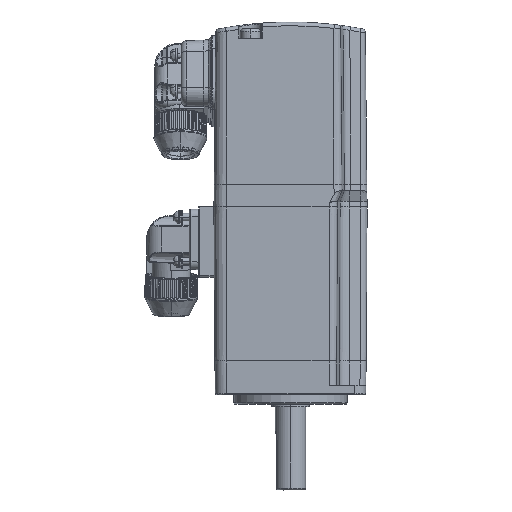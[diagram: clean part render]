
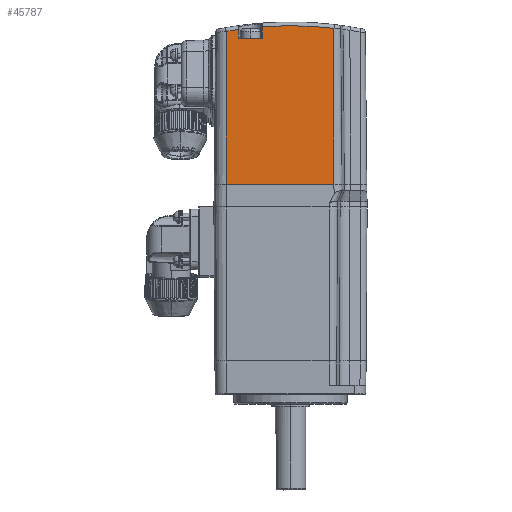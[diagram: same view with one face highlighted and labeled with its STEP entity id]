
A CAD part, front view. The second image highlights one B-rep face of the part: STEP entity #45787.
In plain terms, the highlighted planar face has unit normal (0, -1, 0.009).
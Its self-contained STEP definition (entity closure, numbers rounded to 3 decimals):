
#3166=CARTESIAN_POINT('',(7.305,0.458,46.42));
#3168=DIRECTION('',(0.,-0.009,-1.));
#3169=VECTOR('',#3168,40.422);
#3170=CARTESIAN_POINT('',(7.305,0.458,46.42));
#3171=LINE('',#3170,#3169);
#12964=DIRECTION('',(-1.,0.,0.));
#12965=VECTOR('',#12964,28.492);
#12966=CARTESIAN_POINT('',(35.795,0.105,
6.));
#12967=LINE('',#12966,#12965);
#12968=CARTESIAN_POINT('',(24.301,-0.38,
-49.843));
#12969=DIRECTION('',(0.,1.,-0.009));
#12970=DIRECTION('',(-0.174,0.009,0.985));
#12971=AXIS2_PLACEMENT_3D('',#12968,#12969,#12970);
#12973=CARTESIAN_POINT('',(24.3,-0.38,
-49.832));
#12974=DIRECTION('',(0.,1.,-0.009));
#12975=DIRECTION('',(-0.076,0.009,0.997));
#12976=AXIS2_PLACEMENT_3D('',#12973,#12974,#12975);
#13169=DIRECTION('',(0.,0.009,1.));
#13170=VECTOR('',#13169,41.232);
#13171=CARTESIAN_POINT('',(35.795,0.105,
6.));
#13172=LINE('',#13171,#13170);
#13173=CARTESIAN_POINT('',(35.792,0.465,
47.231));
#14659=DIRECTION('',(0.,-0.009,
-1.));
#14660=VECTOR('',#14659,3.027);
#14661=CARTESIAN_POINT('',(16.88,0.468,47.627));
#14662=LINE('',#14661,#14660);
#14678=DIRECTION('',(-1.,0.,0.));
#14679=VECTOR('',#14678,6.4);
#14680=CARTESIAN_POINT('',(16.88,0.442,44.6));
#14681=LINE('',#14680,#14679);
#14703=DIRECTION('',(0.,0.009,1.));
#14704=VECTOR('',#14703,2.327);
#14705=CARTESIAN_POINT('',(10.48,0.442,44.6));
#14706=LINE('',#14705,#14704);
#27649=VERTEX_POINT('',#13173);
#27695=VERTEX_POINT('',#3166);
#27696=CARTESIAN_POINT('',(16.88,0.468,47.627));
#27697=CARTESIAN_POINT('',(16.88,0.442,44.6));
#27698=VERTEX_POINT('',#27696);
#27699=VERTEX_POINT('',#27697);
#27700=CARTESIAN_POINT('',(10.48,0.462,
46.927));
#27701=VERTEX_POINT('',#27700);
#27702=CARTESIAN_POINT('',(10.48,0.442,44.6));
#27703=VERTEX_POINT('',#27702);
#28250=CARTESIAN_POINT('',(35.792,0.105,6.));
#28252=VERTEX_POINT('',#28250);
#28280=CARTESIAN_POINT('',(7.305,0.105,6.));
#28281=VERTEX_POINT('',#28280);
#45766=CARTESIAN_POINT('',(21.548,0.288,
26.955));
#45767=DIRECTION('',(0.,1.,-0.009));
#45768=DIRECTION('',(-1.,0.,0.));
#45769=AXIS2_PLACEMENT_3D('',#45766,#45767,#45768);
#45770=PLANE('',#45769);
#45771=ORIENTED_EDGE('',*,*,#45756,.T.);
#45772=ORIENTED_EDGE('',*,*,#32586,.F.);
#45774=ORIENTED_EDGE('',*,*,#45773,.T.);
#45776=ORIENTED_EDGE('',*,*,#45775,.F.);
#45778=ORIENTED_EDGE('',*,*,#45777,.F.);
#45780=ORIENTED_EDGE('',*,*,#45779,.F.);
#45782=ORIENTED_EDGE('',*,*,#45781,.T.);
#45784=ORIENTED_EDGE('',*,*,#45783,.F.);
#45785=EDGE_LOOP('',(#45771,#45772,#45774,#45776,#45778,#45780,#45782,#45784));
#45786=FACE_OUTER_BOUND('',#45785,.F.);
#12972=CIRCLE('',#12971,97.756);
#12977=CIRCLE('',#12976,97.744);
#32586=EDGE_CURVE('',#27695,#28281,#3171,.T.);
#45756=EDGE_CURVE('',#28252,#28281,#12967,.T.);
#45773=EDGE_CURVE('',#27695,#27701,#12972,.T.);
#45775=EDGE_CURVE('',#27703,#27701,#14706,.T.);
#45777=EDGE_CURVE('',#27699,#27703,#14681,.T.);
#45779=EDGE_CURVE('',#27698,#27699,#14662,.T.);
#45781=EDGE_CURVE('',#27698,#27649,#12977,.T.);
#45783=EDGE_CURVE('',#28252,#27649,#13172,.T.);
#45787=ADVANCED_FACE('',(#45786),#45770,.F.);
